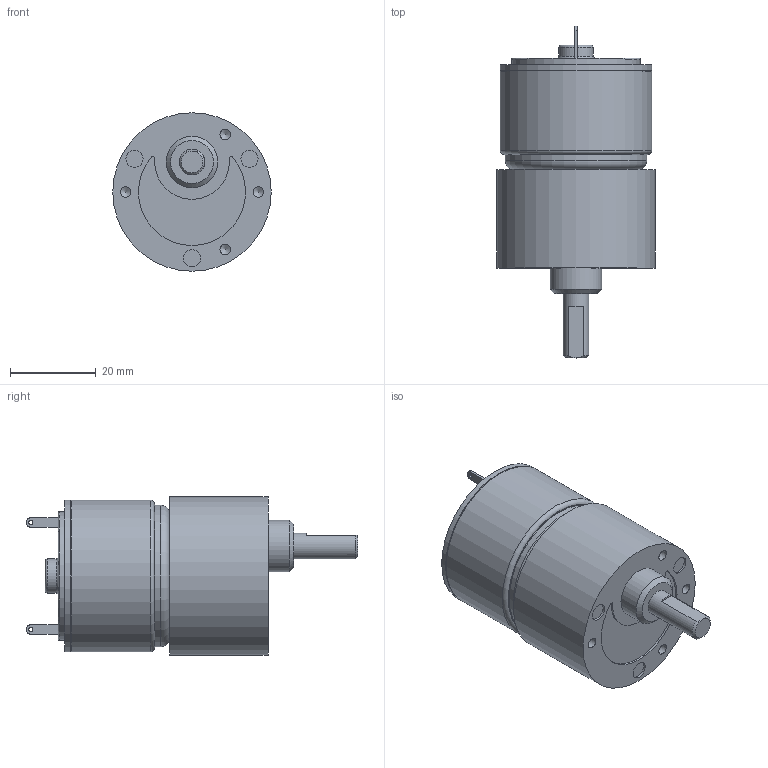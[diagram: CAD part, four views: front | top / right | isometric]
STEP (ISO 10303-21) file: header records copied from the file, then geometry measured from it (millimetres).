
FILE_DESCRIPTION((''),'2;1');
FILE_NAME('C:\Documents and Settings\SSEGAWA\デスクトップ\TP-3526G-KG-3.STP','2013-07-09T17:23:31',('SSEGAWA'),(''),'Autodesk Inventor 2010','Autodesk Inventor 2010','');
FILE_SCHEMA(('CONFIG_CONTROL_DESIGN'));
Length unit declared in the file: millimetre
Products named in the file (3): tp_3526g_kg_3; kg_3; tp_3526g
Assembly tree (2 placements, depth 2):
  tp_3526g_kg_3
    kg_3
    tp_3526g
Bounding box: 37 x 77.5 x 37 mm (x, y, z)
Volume: 50526.5 mm3; surface area: 10496.3 mm2
Topology: 2 solids, 2 shells, 77 faces, 158 edges, 103 vertices
Faces by surface type: plane 30, cylinder 23, bspline 17, torus 4, cone 3
Full cylindrical faces by diameter (mm): 2 x1, 2.4 x1, 4 x3, 5 x2, 6 x1, 8 x1, 10 x1, 12 x1, 30 x1, 33 x1, 35 x1, 35.4 x2, 37 x1
Entity records: 2095 total; most frequent: CARTESIAN_POINT 645, DIRECTION 303, ORIENTED_EDGE 204, EDGE_LOOP 139, AXIS2_PLACEMENT_3D 138, EDGE_CURVE 102, VERTEX_POINT 87, FACE_OUTER_BOUND 77
